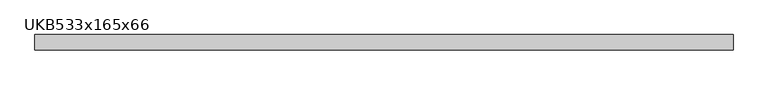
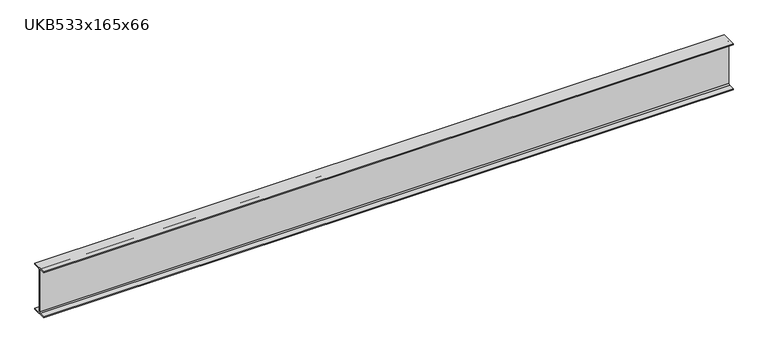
"""IFC4 building model written with IfcOpenShell, lengths in millimetres: beam geometry, UKB-UK Beams : UKB533x165x66."""

from ifc_helpers import new_model, si_unit, point, frame, frame_2d, origin, place, context, project, spatial, polyline, circle_curve, trimmed, segment, composite_curve, outline, extrude, source, transform, mapped, element, save


def ukb533x165x66_64810215(model_context):
    return source(origin(), model_context, "Body", "SweptSolid", [
        extrude(outline(composite_curve([segment(polyline([(82.55, -250.95), (82.55, -262.35), (-82.55, -262.35), (-82.55, -250.95), (-17.15, -250.95)]), True, "CONTINUOUS"), segment(trimmed(circle_curve(frame_2d((-17.15, -238.25)), 12.7), [point((-17.15, -250.95))], [point((-4.45, -238.25))], True, "CARTESIAN"), True, "CONTINUOUS"), segment(polyline([(-4.45, -238.25), (-4.45, 238.25)]), True, "CONTINUOUS"), segment(trimmed(circle_curve(frame_2d((-17.15, 238.25)), 12.7), [point((-4.45, 238.25))], [point((-17.15, 250.95))], True, "CARTESIAN"), True, "CONTINUOUS"), segment(polyline([(-17.15, 250.95), (-82.55, 250.95), (-82.55, 262.35), (82.55, 262.35), (82.55, 250.95), (17.15, 250.95)]), True, "CONTINUOUS"), segment(trimmed(circle_curve(frame_2d((17.15, 238.25)), 12.7), [point((17.15, 250.95))], [point((4.45, 238.25))], True, "CARTESIAN"), True, "CONTINUOUS"), segment(polyline([(4.45, 238.25), (4.45, -238.25)]), True, "CONTINUOUS"), segment(trimmed(circle_curve(frame_2d((17.15, -238.25)), 12.7), [point((4.45, -238.25))], [point((17.15, -250.95))], True, "CARTESIAN"), True, "CONTINUOUS"), segment(polyline([(17.15, -250.95), (82.55, -250.95)]), True, "CONTINUOUS")], self_intersect=False)), frame((-3725.0, 0.0, 0.0), z_axis=(1.0, 0.0, 0.0), x_axis=(0.0, 1.0, 0.0)), (0.0, 0.0, 1.0), 7450.0),
    ])


if __name__ == "__main__":
    model = new_model("IFC4")
    model_context = context("Model", 3, world=origin())
    ifc_project = project(units=[si_unit("LENGTHUNIT", "METRE", prefix="MILLI")], contexts=[model_context])
    site = spatial("IfcSite", under=ifc_project)
    building = spatial("IfcBuilding", under=site)
    placement = place(None, origin())
    ukb533x165x66_shape = ukb533x165x66_64810215(model_context)
    element("IfcBeam", 1, ObjectType="UKB-UK Beams : UKB533x165x66", at=placement, inside=building, context=model_context, shape_type="MappedRepresentation", body=[
        mapped(ukb533x165x66_shape, transform((0.0, 0.0, 0.0), x_axis=(1.0, 0.0, 0.0), y_axis=(0.0, 1.0, 0.0), z_axis=(0.0, 0.0, 1.0))),
    ])
    save(model, "model.ifc")
